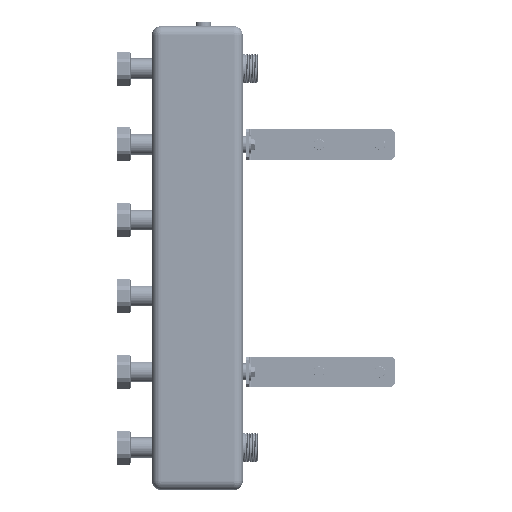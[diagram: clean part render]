
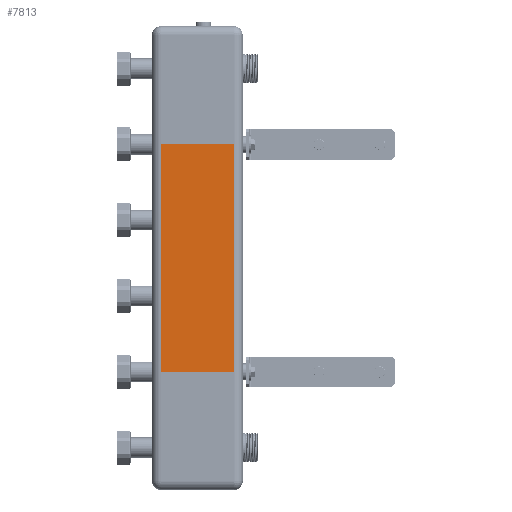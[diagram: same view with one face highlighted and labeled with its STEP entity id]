
A CAD part, left-side view. The second image highlights one B-rep face of the part: STEP entity #7813.
In plain terms, the highlighted planar face has unit normal (-1, 0, 0) as drawn and (0, 0, 1) by its records, which use the part's own axes.
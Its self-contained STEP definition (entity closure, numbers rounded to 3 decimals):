
#1405 = AXIS2_PLACEMENT_3D ( 'NONE', #52284, #14775, #48004 ) ;
#1635 = DIRECTION ( 'NONE',  ( 0., 1., 0. ) ) ;
#1758 = CARTESIAN_POINT ( 'NONE',  ( -187.5, -60., 75. ) ) ;
#1963 = EDGE_CURVE ( 'NONE', #2419, #41039, #8404, .T. ) ;
#2419 = VERTEX_POINT ( 'NONE', #9377 ) ;
#2731 = CARTESIAN_POINT ( 'NONE',  ( 187.5, -60., 75. ) ) ;
#4261 = CARTESIAN_POINT ( 'NONE',  ( -187.5, -60., 75. ) ) ;
#4311 = EDGE_CURVE ( 'NONE', #66197, #41039, #52753, .T. ) ;
#7813 = ADVANCED_FACE ( 'NONE', ( #37392 ), #25740, .T. ) ;
#8404 = LINE ( 'NONE', #43368, #59579 ) ;
#8656 = ORIENTED_EDGE ( 'NONE', *, *, #1963, .F. ) ;
#9377 = CARTESIAN_POINT ( 'NONE',  ( 187.5, 60., 75. ) ) ;
#11213 = CARTESIAN_POINT ( 'NONE',  ( -187.5, -60., 75. ) ) ;
#13038 = VECTOR ( 'NONE', #40706, 1000. ) ;
#14775 = DIRECTION ( 'NONE',  ( 0., 0., 1. ) ) ;
#25740 = PLANE ( 'NONE',  #1405 ) ;
#28506 = LINE ( 'NONE', #50104, #45525 ) ;
#32067 = DIRECTION ( 'NONE',  ( 0., -1., 0. ) ) ;
#37392 = FACE_OUTER_BOUND ( 'NONE', #51822, .T. ) ;
#40706 = DIRECTION ( 'NONE',  ( 1., 0., 0. ) ) ;
#41039 = VERTEX_POINT ( 'NONE', #2731 ) ;
#43368 = CARTESIAN_POINT ( 'NONE',  ( 187.5, 60., 75. ) ) ;
#45525 = VECTOR ( 'NONE', #60697, 1000. ) ;
#45748 = ORIENTED_EDGE ( 'NONE', *, *, #4311, .T. ) ;
#45880 = ORIENTED_EDGE ( 'NONE', *, *, #59877, .F. ) ;
#45933 = EDGE_CURVE ( 'NONE', #66197, #47163, #61080, .T. ) ;
#47163 = VERTEX_POINT ( 'NONE', #65017 ) ;
#48004 = DIRECTION ( 'NONE',  ( 1., 0., 0. ) ) ;
#50104 = CARTESIAN_POINT ( 'NONE',  ( -187.5, 60., 75. ) ) ;
#50216 = ORIENTED_EDGE ( 'NONE', *, *, #45933, .F. ) ;
#51687 = VECTOR ( 'NONE', #1635, 1000. ) ;
#51822 = EDGE_LOOP ( 'NONE', ( #50216, #45748, #8656, #45880 ) ) ;
#52284 = CARTESIAN_POINT ( 'NONE',  ( 0., 0., 75. ) ) ;
#52753 = LINE ( 'NONE', #4261, #13038 ) ;
#59579 = VECTOR ( 'NONE', #32067, 1000. ) ;
#59877 = EDGE_CURVE ( 'NONE', #47163, #2419, #28506, .T. ) ;
#60697 = DIRECTION ( 'NONE',  ( 1., 0., 0. ) ) ;
#61080 = LINE ( 'NONE', #11213, #51687 ) ;
#65017 = CARTESIAN_POINT ( 'NONE',  ( -187.5, 60., 75. ) ) ;
#66197 = VERTEX_POINT ( 'NONE', #1758 ) ;
